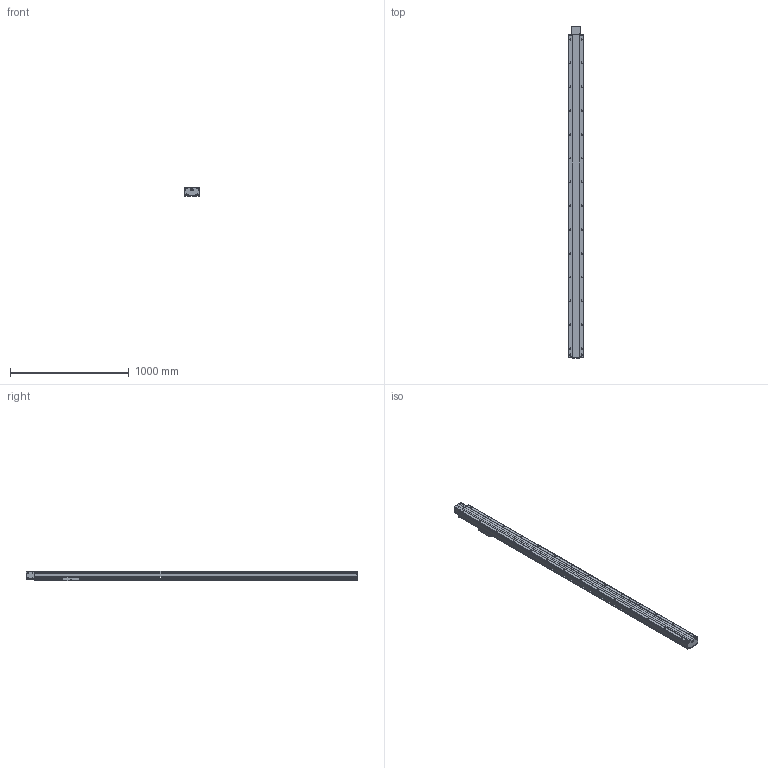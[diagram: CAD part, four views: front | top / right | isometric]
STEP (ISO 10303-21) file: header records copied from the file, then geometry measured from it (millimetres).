
FILE_DESCRIPTION(/* description */ (''),/* implementation_level */ '2;1');
FILE_NAME(/* name */ 'TKB120-FR-2400_asm1_stp.stp',/* time_stamp */ '2016-06-28T16:21:00+08:00',/* author */ (''),/* organization */ (''),/* preprocessor_version */ 'ST-DEVELOPER v15',/* originating_system */ 'SIEMENS PLM Software NX 8.5',/* authorisation */ '');
FILE_SCHEMA (('AUTOMOTIVE_DESIGN { 1 0 10303 214 3 1 1 1 }'));
Length unit declared in the file: millimetre
Products named in the file (3): 200-2; 200-1; TKB120-FR-2400_asm1_stp
Assembly tree (2 placements, depth 2):
  TKB120-FR-2400_asm1_stp
    200-1
    200-2
Bounding box: 134 x 2791 x 80 mm (x, y, z)
Volume: 6675223.5 mm3; surface area: 2791980.2 mm2
Topology: 2 solids, 3 shells, 911 faces, 2687 edges, 1761 vertices
Faces by surface type: cylinder 463, plane 406, cone 42
Full cylindrical faces by diameter (mm): 2.5 x4, 3.3 x20, 4.2 x4, 4.5 x24, 5 x40, 5.5 x30, 6.6 x6, 6.8 x4, 7.5 x4, 8 x12, 9 x6, 9.75 x60, 10.5 x4, 11 x2, 12 x4, 14 x2, 17 x2, 35 x2, 40 x3, 50 x2, 52 x1
Entity records: 30314 total; most frequent: CARTESIAN_POINT 6765, DIRECTION 4909, ORIENTED_EDGE 4556, EDGE_CURVE 2278, AXIS2_PLACEMENT_3D 1886, VERTEX_POINT 1672, EDGE_LOOP 1428, LINE 1137
